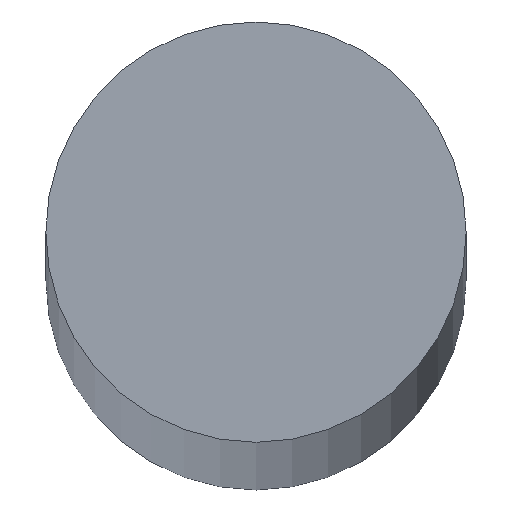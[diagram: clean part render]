
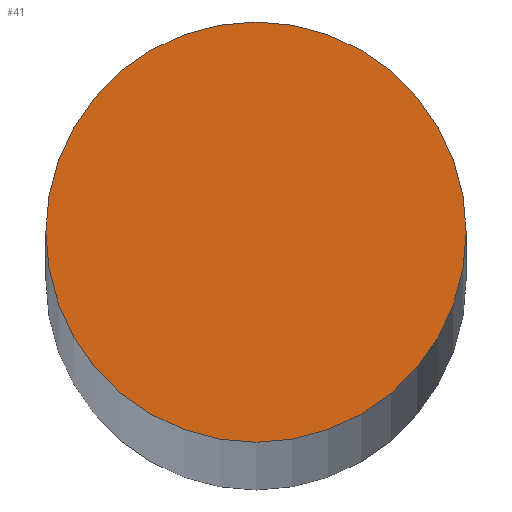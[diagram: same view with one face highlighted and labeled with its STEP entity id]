
A CAD part, top view. The second image highlights one B-rep face of the part: STEP entity #41.
In plain terms, the highlighted planar face has unit normal (0, 0, 1).
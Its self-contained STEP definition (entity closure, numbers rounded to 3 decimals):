
#16=PLANE('',#66);
#19=FACE_OUTER_BOUND('',#22,.T.);
#22=EDGE_LOOP('',(#37));
#25=CIRCLE('',#63,10.);
#27=VERTEX_POINT('',#82);
#29=EDGE_CURVE('',#27,#27,#25,.T.);
#37=ORIENTED_EDGE('',*,*,#29,.T.);
#41=ADVANCED_FACE('',(#19),#16,.T.);
#63=AXIS2_PLACEMENT_3D('',#83,#71,#72);
#66=AXIS2_PLACEMENT_3D('',#88,#78,#79);
#71=DIRECTION('center_axis',(0.,0.,1.));
#72=DIRECTION('ref_axis',(-1.,0.,0.));
#78=DIRECTION('center_axis',(0.,0.,1.));
#79=DIRECTION('ref_axis',(1.,0.,0.));
#82=CARTESIAN_POINT('',(10.,0.,1300.));
#83=CARTESIAN_POINT('Origin',(0.,0.,1300.));
#88=CARTESIAN_POINT('Origin',(0.,0.,1300.));
